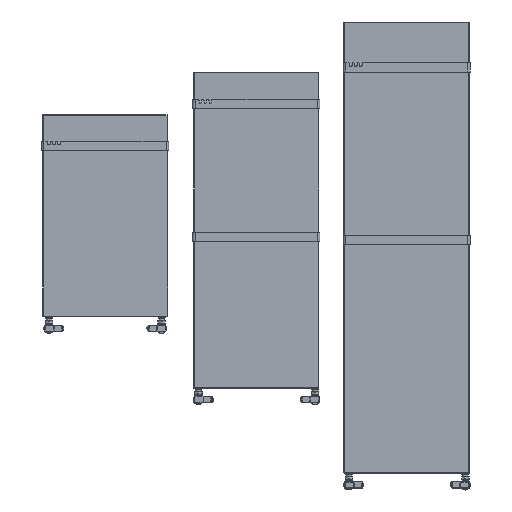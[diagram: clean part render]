
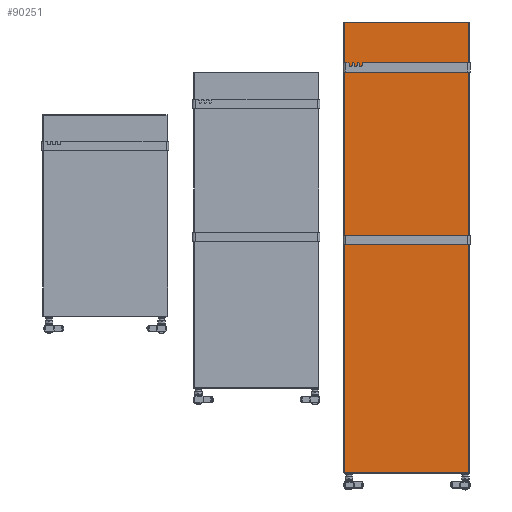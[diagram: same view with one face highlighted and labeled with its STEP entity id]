
A CAD part, front view. The second image highlights one B-rep face of the part: STEP entity #90251.
In plain terms, the highlighted free-form (B-spline) face has degree [1, 1] with [2, 2] control points.
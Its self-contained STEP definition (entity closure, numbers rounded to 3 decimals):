
#90190 = CARTESIAN_POINT ('', (1955.557, 509.803, 464.698));
#90191 = VERTEX_POINT ('', #90190);
#90198 = CARTESIAN_POINT ('', (1459.557, 509.803, 464.698));
#90199 = VERTEX_POINT ('', #90198);
#90200 = CARTESIAN_POINT ('', (1459.557, 509.803, 464.698));
#90201 = CARTESIAN_POINT ('', (1955.557, 509.803, 464.698));
#90202 = B_SPLINE_CURVE_WITH_KNOTS ('', 1, (#90200, #90201), .UNSPECIFIED., .F., .U., (2, 2), (0., 1.), .UNSPECIFIED.);
#90203 = EDGE_CURVE ('', #90199, #90191, #90202, .T.);
#90224 = ORIENTED_EDGE ('', *, *, #90203, .T.);
#90225 = CARTESIAN_POINT ('', (1955.557, 509.803, 2260.698));
#90226 = VERTEX_POINT ('', #90225);
#90227 = CARTESIAN_POINT ('', (1955.557, 509.803, 464.698));
#90228 = CARTESIAN_POINT ('', (1955.557, 509.803, 2260.698));
#90229 = B_SPLINE_CURVE_WITH_KNOTS ('', 1, (#90227, #90228), .UNSPECIFIED., .F., .U., (2, 2), (0., 1.), .UNSPECIFIED.);
#90230 = EDGE_CURVE ('', #90191, #90226, #90229, .T.);
#90231 = ORIENTED_EDGE ('', *, *, #90230, .T.);
#90232 = CARTESIAN_POINT ('', (1459.557, 509.803, 2260.698));
#90233 = VERTEX_POINT ('', #90232);
#90234 = CARTESIAN_POINT ('', (1955.557, 509.803, 2260.698));
#90235 = CARTESIAN_POINT ('', (1459.557, 509.803, 2260.698));
#90236 = B_SPLINE_CURVE_WITH_KNOTS ('', 1, (#90234, #90235), .UNSPECIFIED., .F., .U., (2, 2), (0., 1.), .UNSPECIFIED.);
#90237 = EDGE_CURVE ('', #90226, #90233, #90236, .T.);
#90238 = ORIENTED_EDGE ('', *, *, #90237, .T.);
#90239 = CARTESIAN_POINT ('', (1459.557, 509.803, 2260.698));
#90240 = CARTESIAN_POINT ('', (1459.557, 509.803, 464.698));
#90241 = B_SPLINE_CURVE_WITH_KNOTS ('', 1, (#90239, #90240), .UNSPECIFIED., .F., .U., (2, 2), (0., 1.), .UNSPECIFIED.);
#90242 = EDGE_CURVE ('', #90233, #90199, #90241, .T.);
#90243 = ORIENTED_EDGE ('', *, *, #90242, .T.);
#90244 = EDGE_LOOP ('', (#90224, #90231, #90238, #90243));
#90245 = FACE_OUTER_BOUND ('', #90244, .T.);
#90246 = CARTESIAN_POINT ('', (1459.557, 509.803, 2260.698));
#90247 = CARTESIAN_POINT ('', (1955.557, 509.803, 2260.698));
#90248 = CARTESIAN_POINT ('', (1459.557, 509.803, 464.698));
#90249 = CARTESIAN_POINT ('', (1955.557, 509.803, 464.698));
#90250 = B_SPLINE_SURFACE_WITH_KNOTS ('', 1, 1, ((#90246, #90247), (#90248, #90249)), .UNSPECIFIED., .F., .F., .U., (2, 2), (2, 2), (0., 1.), (0., 1.), .UNSPECIFIED.);
#90251 = ADVANCED_FACE ('', (#90245), #90250, .T.);
